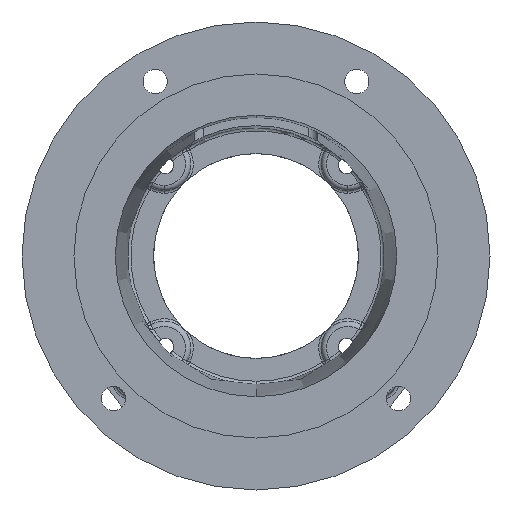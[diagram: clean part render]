
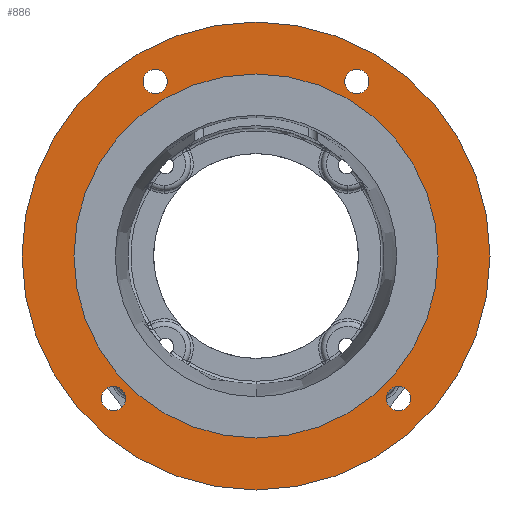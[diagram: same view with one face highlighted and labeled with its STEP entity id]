
A CAD part, front view. The second image highlights one B-rep face of the part: STEP entity #886.
In plain terms, the highlighted planar face has unit normal (0, -1, 0).
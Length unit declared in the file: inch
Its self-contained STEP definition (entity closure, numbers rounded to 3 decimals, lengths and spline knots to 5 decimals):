
#189 = DIRECTION ( 'NONE',  ( 0., 0., 1. ) ) ;
#191 = EDGE_CURVE ( 'NONE', #9411, #2724, #7985, .T. ) ;
#194 = VERTEX_POINT ( 'NONE', #6904 ) ;
#201 = VERTEX_POINT ( 'NONE', #718 ) ;
#204 = DIRECTION ( 'NONE',  ( 0., 1., 0. ) ) ;
#221 = PLANE ( 'NONE',  #6279 ) ;
#222 = ORIENTED_EDGE ( 'NONE', *, *, #8214, .F. ) ;
#226 = CARTESIAN_POINT ( 'NONE',  ( -4.5, 0., 0. ) ) ;
#469 = DIRECTION ( 'NONE',  ( 0., -1., 0. ) ) ;
#487 = CARTESIAN_POINT ( 'NONE',  ( 0., 0., -3.501 ) ) ;
#577 = CIRCLE ( 'NONE', #1150, 0.23438 ) ;
#718 = CARTESIAN_POINT ( 'NONE',  ( -2.74004, 0., -2.97441 ) ) ;
#720 = CARTESIAN_POINT ( 'NONE',  ( -1.9375, 0., 3.59022 ) ) ;
#779 = CIRCLE ( 'NONE', #3470, 4.5 ) ;
#781 = CARTESIAN_POINT ( 'NONE',  ( 0., 0., 4.5 ) ) ;
#801 = EDGE_CURVE ( 'NONE', #3869, #9511, #577, .T. ) ;
#816 = DIRECTION ( 'NONE',  ( 0., 0., -1. ) ) ;
#821 = DIRECTION ( 'NONE',  ( 0., -1., 0. ) ) ;
#830 = CARTESIAN_POINT ( 'NONE',  ( -1.9375, 0., 3.35585 ) ) ;
#886 = ADVANCED_FACE ( 'NONE', ( #4255, #8462, #4541, #2032, #6284, #3983 ), #221, .F. ) ;
#897 = EDGE_CURVE ( 'NONE', #201, #6708, #6019, .T. ) ;
#952 = CIRCLE ( 'NONE', #2472, 0.23438 ) ;
#1012 = EDGE_CURVE ( 'NONE', #194, #10262, #5756, .T. ) ;
#1150 = AXIS2_PLACEMENT_3D ( 'NONE', #830, #821, #816 ) ;
#1419 = ORIENTED_EDGE ( 'NONE', *, *, #2110, .T. ) ;
#1812 = EDGE_CURVE ( 'NONE', #9511, #3869, #8545, .T. ) ;
#1843 = CARTESIAN_POINT ( 'NONE',  ( -2.74004, 0., -2.74004 ) ) ;
#2032 = FACE_BOUND ( 'NONE', #7849, .T. ) ;
#2110 = EDGE_CURVE ( 'NONE', #4166, #6158, #779, .T. ) ;
#2136 = ORIENTED_EDGE ( 'NONE', *, *, #1012, .F. ) ;
#2373 = ORIENTED_EDGE ( 'NONE', *, *, #2587, .F. ) ;
#2449 = DIRECTION ( 'NONE',  ( 0., 0., -1. ) ) ;
#2472 = AXIS2_PLACEMENT_3D ( 'NONE', #1843, #7772, #2693 ) ;
#2506 = CARTESIAN_POINT ( 'NONE',  ( 2.74004, 0., -2.74004 ) ) ;
#2587 = EDGE_CURVE ( 'NONE', #8476, #7084, #4864, .T. ) ;
#2693 = DIRECTION ( 'NONE',  ( 0., 0., -1. ) ) ;
#2724 = VERTEX_POINT ( 'NONE', #487 ) ;
#2884 = CARTESIAN_POINT ( 'NONE',  ( -2.74004, 0., -2.50566 ) ) ;
#3100 = DIRECTION ( 'NONE',  ( 0., -1., 0. ) ) ;
#3159 = DIRECTION ( 'NONE',  ( 0., -1., 0. ) ) ;
#3235 = ORIENTED_EDGE ( 'NONE', *, *, #801, .F. ) ;
#3470 = AXIS2_PLACEMENT_3D ( 'NONE', #6093, #10163, #6252 ) ;
#3500 = CIRCLE ( 'NONE', #5141, 4.5 ) ;
#3865 = DIRECTION ( 'NONE',  ( 0., 0., -1. ) ) ;
#3869 = VERTEX_POINT ( 'NONE', #720 ) ;
#3933 = DIRECTION ( 'NONE',  ( 0., -1., 0. ) ) ;
#3976 = CARTESIAN_POINT ( 'NONE',  ( 0., 0., 0. ) ) ;
#3983 = FACE_OUTER_BOUND ( 'NONE', #8463, .T. ) ;
#4097 = ORIENTED_EDGE ( 'NONE', *, *, #7881, .F. ) ;
#4166 = VERTEX_POINT ( 'NONE', #5885 ) ;
#4214 = EDGE_CURVE ( 'NONE', #6158, #4166, #3500, .T. ) ;
#4219 = AXIS2_PLACEMENT_3D ( 'NONE', #9577, #4577, #10376 ) ;
#4255 = FACE_BOUND ( 'NONE', #5341, .T. ) ;
#4536 = AXIS2_PLACEMENT_3D ( 'NONE', #8224, #3159, #9037 ) ;
#4541 = FACE_BOUND ( 'NONE', #7704, .T. ) ;
#4577 = DIRECTION ( 'NONE',  ( 0., -1., 0. ) ) ;
#4827 = AXIS2_PLACEMENT_3D ( 'NONE', #10586, #9850, #9816 ) ;
#4864 = CIRCLE ( 'NONE', #6489, 0.23438 ) ;
#4958 = ORIENTED_EDGE ( 'NONE', *, *, #7160, .F. ) ;
#5141 = AXIS2_PLACEMENT_3D ( 'NONE', #3976, #3933, #3865 ) ;
#5341 = EDGE_LOOP ( 'NONE', ( #9968, #3235 ) ) ;
#5484 = ORIENTED_EDGE ( 'NONE', *, *, #4214, .T. ) ;
#5527 = CIRCLE ( 'NONE', #8189, 3.501 ) ;
#5627 = EDGE_LOOP ( 'NONE', ( #4958, #2136 ) ) ;
#5697 = AXIS2_PLACEMENT_3D ( 'NONE', #7823, #6842, #7541 ) ;
#5756 = CIRCLE ( 'NONE', #10658, 0.23438 ) ;
#5885 = CARTESIAN_POINT ( 'NONE',  ( 0., 0., -4.5 ) ) ;
#6019 = CIRCLE ( 'NONE', #5697, 0.23438 ) ;
#6093 = CARTESIAN_POINT ( 'NONE',  ( 0., 0., 0. ) ) ;
#6158 = VERTEX_POINT ( 'NONE', #781 ) ;
#6245 = EDGE_CURVE ( 'NONE', #2724, #9411, #5527, .T. ) ;
#6252 = DIRECTION ( 'NONE',  ( 0., 0., -1. ) ) ;
#6279 = AXIS2_PLACEMENT_3D ( 'NONE', #226, #204, #189 ) ;
#6284 = FACE_BOUND ( 'NONE', #9751, .T. ) ;
#6342 = AXIS2_PLACEMENT_3D ( 'NONE', #6819, #6813, #6801 ) ;
#6471 = CARTESIAN_POINT ( 'NONE',  ( 2.74004, 0., -2.97441 ) ) ;
#6489 = AXIS2_PLACEMENT_3D ( 'NONE', #2506, #469, #2449 ) ;
#6708 = VERTEX_POINT ( 'NONE', #2884 ) ;
#6801 = DIRECTION ( 'NONE',  ( 0., 0., -1. ) ) ;
#6813 = DIRECTION ( 'NONE',  ( 0., -1., 0. ) ) ;
#6819 = CARTESIAN_POINT ( 'NONE',  ( 0., 0., 0. ) ) ;
#6842 = DIRECTION ( 'NONE',  ( 0., -1., 0. ) ) ;
#6904 = CARTESIAN_POINT ( 'NONE',  ( 1.9375, 0., 3.59022 ) ) ;
#7000 = CARTESIAN_POINT ( 'NONE',  ( 2.74004, 0., -2.50566 ) ) ;
#7084 = VERTEX_POINT ( 'NONE', #7000 ) ;
#7160 = EDGE_CURVE ( 'NONE', #10262, #194, #7711, .T. ) ;
#7541 = DIRECTION ( 'NONE',  ( 0., 0., -1. ) ) ;
#7704 = EDGE_LOOP ( 'NONE', ( #2373, #222 ) ) ;
#7711 = CIRCLE ( 'NONE', #4219, 0.23438 ) ;
#7772 = DIRECTION ( 'NONE',  ( 0., -1., 0. ) ) ;
#7823 = CARTESIAN_POINT ( 'NONE',  ( -2.74004, 0., -2.74004 ) ) ;
#7849 = EDGE_LOOP ( 'NONE', ( #8202, #4097 ) ) ;
#7881 = EDGE_CURVE ( 'NONE', #6708, #201, #952, .T. ) ;
#7985 = CIRCLE ( 'NONE', #6342, 3.501 ) ;
#8154 = ORIENTED_EDGE ( 'NONE', *, *, #6245, .F. ) ;
#8166 = CARTESIAN_POINT ( 'NONE',  ( 0., 0., 0. ) ) ;
#8189 = AXIS2_PLACEMENT_3D ( 'NONE', #8166, #3100, #8976 ) ;
#8202 = ORIENTED_EDGE ( 'NONE', *, *, #897, .F. ) ;
#8214 = EDGE_CURVE ( 'NONE', #7084, #8476, #10745, .T. ) ;
#8224 = CARTESIAN_POINT ( 'NONE',  ( 2.74004, 0., -2.74004 ) ) ;
#8268 = CARTESIAN_POINT ( 'NONE',  ( 1.9375, 0., 3.12147 ) ) ;
#8291 = CARTESIAN_POINT ( 'NONE',  ( -1.9375, 0., 3.12147 ) ) ;
#8462 = FACE_BOUND ( 'NONE', #5627, .T. ) ;
#8463 = EDGE_LOOP ( 'NONE', ( #1419, #5484 ) ) ;
#8476 = VERTEX_POINT ( 'NONE', #6471 ) ;
#8545 = CIRCLE ( 'NONE', #4827, 0.23438 ) ;
#8581 = ORIENTED_EDGE ( 'NONE', *, *, #191, .F. ) ;
#8976 = DIRECTION ( 'NONE',  ( 0., 0., -1. ) ) ;
#9037 = DIRECTION ( 'NONE',  ( 0., 0., -1. ) ) ;
#9173 = DIRECTION ( 'NONE',  ( 0., 0., -1. ) ) ;
#9202 = DIRECTION ( 'NONE',  ( 0., -1., 0. ) ) ;
#9243 = CARTESIAN_POINT ( 'NONE',  ( 1.9375, 0., 3.35585 ) ) ;
#9411 = VERTEX_POINT ( 'NONE', #10585 ) ;
#9511 = VERTEX_POINT ( 'NONE', #8291 ) ;
#9577 = CARTESIAN_POINT ( 'NONE',  ( 1.9375, 0., 3.35585 ) ) ;
#9751 = EDGE_LOOP ( 'NONE', ( #8154, #8581 ) ) ;
#9816 = DIRECTION ( 'NONE',  ( 0., 0., -1. ) ) ;
#9850 = DIRECTION ( 'NONE',  ( 0., -1., 0. ) ) ;
#9968 = ORIENTED_EDGE ( 'NONE', *, *, #1812, .F. ) ;
#10163 = DIRECTION ( 'NONE',  ( 0., -1., 0. ) ) ;
#10262 = VERTEX_POINT ( 'NONE', #8268 ) ;
#10376 = DIRECTION ( 'NONE',  ( 0., 0., -1. ) ) ;
#10585 = CARTESIAN_POINT ( 'NONE',  ( 0., 0., 3.501 ) ) ;
#10586 = CARTESIAN_POINT ( 'NONE',  ( -1.9375, 0., 3.35585 ) ) ;
#10658 = AXIS2_PLACEMENT_3D ( 'NONE', #9243, #9202, #9173 ) ;
#10745 = CIRCLE ( 'NONE', #4536, 0.23438 ) ;
